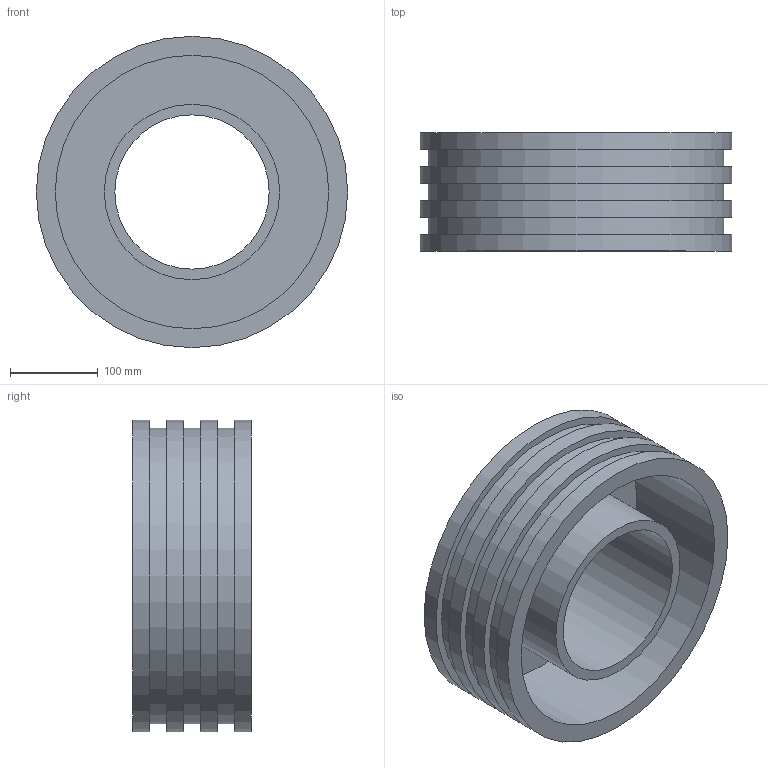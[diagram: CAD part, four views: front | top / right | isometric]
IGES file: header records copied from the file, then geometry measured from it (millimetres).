
Global section: file name: 37020200.ipt; native system: Autodesk Inventor 2015; preprocessor: unknown; author: Кирилл,,11,0; organization: 20170830.190241; date: 20171106.093315; units: millimetre
Bounding box: 355 x 135 x 355 mm (x, y, z)
Volume: 3873755.7 mm3; surface area: 630821 mm2
Topology: 1 solids, 1 shells, 20 faces, 34 edges, 24 vertices
Faces by surface type: plane 10, cylinder 8, revolution 2
Full cylindrical faces by diameter (mm): 200 x1, 337.25 x3, 355 x4
